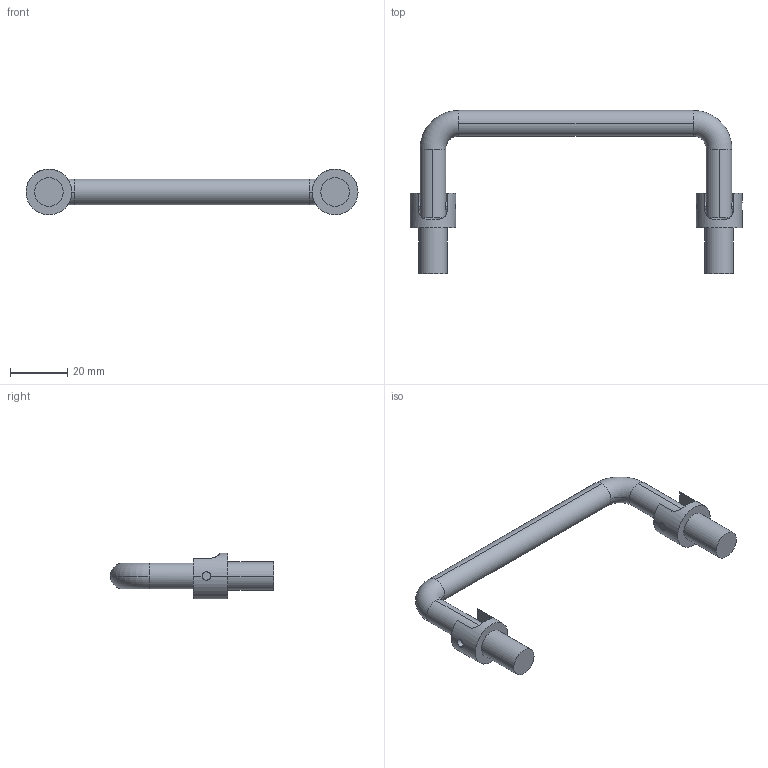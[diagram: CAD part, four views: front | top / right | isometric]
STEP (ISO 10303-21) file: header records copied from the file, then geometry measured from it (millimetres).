
FILE_DESCRIPTION (( 'STEP AP203' ), '1' );
FILE_NAME ('E04-504100.STEP', '2024-10-29T03:15:11', ( '' ), ( '' ), 'SwSTEP 2.0', 'SolidWorks 2021', '' );
FILE_SCHEMA (( 'CONFIG_CONTROL_DESIGN' ));
Length unit declared in the file: millimetre
Products named in the file (4): E04-504-1; E04-PIN; E04-504100-1; E04-504100
Assembly tree (5 placements, depth 2):
  E04-504100
    E04-504-1  x2
    E04-504100-1
    E04-PIN  x2
Bounding box: 116 x 57 x 16 mm (x, y, z)
Volume: 15226.4 mm3; surface area: 8473 mm2
Topology: 5 solids, 5 shells, 62 faces, 166 edges, 108 vertices
Faces by surface type: cylinder 38, plane 20, torus 4
Entity records: 2106 total; most frequent: CARTESIAN_POINT 647, DIRECTION 220, ORIENTED_EDGE 208, EDGE_CURVE 104, AXIS2_PLACEMENT_3D 93, VERTEX_POINT 68, CIRCLE 46, EDGE_LOOP 44
